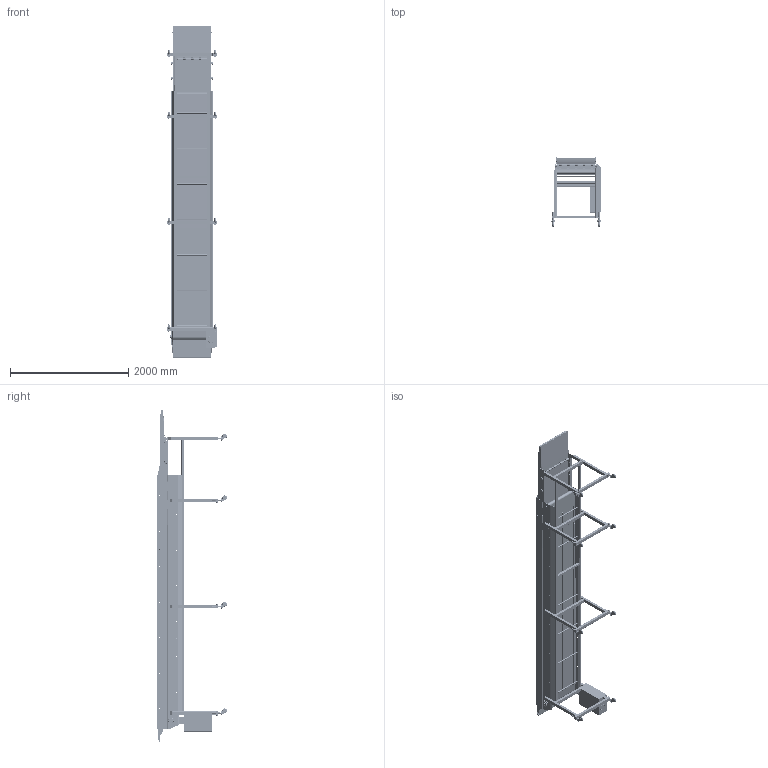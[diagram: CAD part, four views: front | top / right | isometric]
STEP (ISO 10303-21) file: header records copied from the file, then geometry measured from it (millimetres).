
FILE_DESCRIPTION(/* description */ (''),/* implementation_level */ '2;1');
FILE_NAME(/* name */ 'beltconveyor_a065_w600_l11000.stp',/* time_stamp */ '2024-12-26T21:33:50+08:00',/* author */ (''),/* organization */ (''),/* preprocessor_version */ 'ST-DEVELOPER v16.7',/* originating_system */ 'SIEMENS PLM Software NX 12.0',/* authorisation */ '');
FILE_SCHEMA (('AUTOMOTIVE_DESIGN { 1 0 10303 214 3 1 1 1 }'));
Products named in the file (81): 20267.01.07; 20267.01.06_Varsay峫an[Makinelenmi_ Olarak]; 20267.01.05; 20267.01.04; 20267.01.01; M12x40 AKB; 20267.03.09; 20267.S3300-PUB 080 F18; M10x20 AKB; CCS.SomunM10; 20267.03.06_Varsay峫an[Makinelenmi_ Olarak]; 20267.03.05; M8x30 AKB; 20267.03.08; 20267.02.01; M10x30 AKB; 20267.05.15; 20267.03.07; 20267.05.14_Varsay峫an[Makinelenmi_ Olarak]; 20267.08.05; 20267.08.04; M8x20 AKB; 20267.08.02; 20267.08.01; 20267.05.11; 20267.05.10; 20267.06.03; 20267.01.03; 20267.01.02; 20267.06.01; 20267.06.02; 20267.A071_G motor; 20267.19E050A07 motor flansi; 20267.E050 govde; 20267.03.04; 20267.03.03; 20267.03.02; Ters-20267.02.02; CCS.SomunM8; M8x25 imbus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
Assembly tree (275 placements, depth 5):
  beltconveyor_a065_w600_l11000
    20267.05.00
      20267.05.01
      20267.05.02
      Ters-20267.05.01
      Ters-20267.05.02
      20267.06.00
        20267.06.02  x2
        20267.06.01  x2
        20267.01.02  x10
        20267.01.03  x10
        20267.06.03  x5
      20267.05.03  x15
      20267.05.04  x5
      20267.05.05  x5
      20267.05.06  x5
      20267.05.07  x10
      20267.05.08  x10
      20267.05.09  x5
      20267.07.00  x2
        20267.05.10
        20267.05.11
      20267.05.12  x5
      20267.05.13  x5
      20267 ucf206  x2
      20267.08.00
        20267.08.01
        20267.08.02  x5
        20267.08.03
        M8x20 AKB
        20267.08.04  x2
        20267.08.05  x4
        20267- tahrik 0.5inch 20 dis tek
      20267.05a.00  x3
        20267.05.14_Varsay峫an[Makinelenmi_ Olarak]
        20267.03.07
        20267.05.15
        20267.09.00
          20267.S3300-PUB 080 F18
          20267.03.09
          M12x40 AKB
        M10x30 AKB
    20267.03.00
      20267.02.00
        20267.02.01
        20267.01.00
          20267.01.01
          20267.01.02  x10
          20267.01.03  x10
          20267.01.04
          20267.01.05  x5
          20267.01.06_Varsay峫an[Makinelenmi_ Olarak]  x6
          20267.01.07
        20267.03.08  x2
        M8x30 AKB  x2
      20267.02.02
      20267.03.01  x10
      M8x25 imbus  x10
      CCS.SomunM8  x10
      Ters-20267.02.02
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Bounding box: 859 x 1184.5 x 5614.71 mm (x, y, z)
Volume: 86337309.2 mm3; surface area: 48939307.4 mm2
Topology: 392 solids, 396 shells, 8641 faces, 20794 edges, 13106 vertices
Faces by surface type: plane 3841, cylinder 2665, cone 1070, extrusion 615, torus 406, bspline 26, sphere 18
Entity records: 131157 total; most frequent: CARTESIAN_POINT 34271, ORIENTED_EDGE 19852, DIRECTION 18118, EDGE_CURVE 9926, VERTEX_POINT 6372, AXIS2_PLACEMENT_3D 6251, VECTOR 5616, LINE 5001
